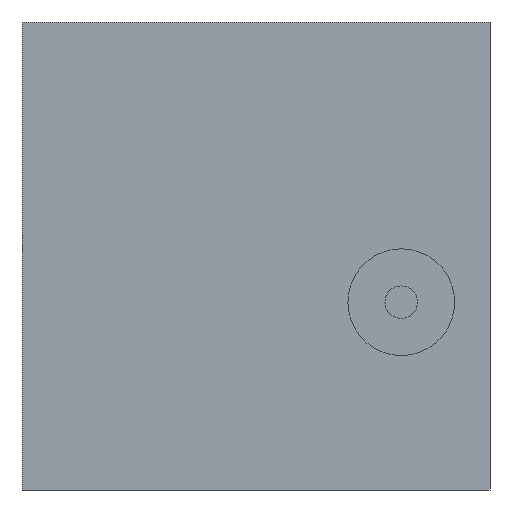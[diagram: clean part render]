
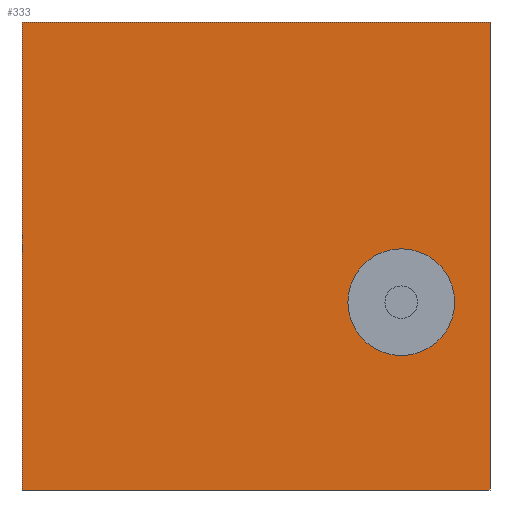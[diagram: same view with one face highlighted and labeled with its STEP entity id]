
A CAD part, left-side view. The second image highlights one B-rep face of the part: STEP entity #333.
In plain terms, the highlighted planar face has unit normal (-1, 0, 0).
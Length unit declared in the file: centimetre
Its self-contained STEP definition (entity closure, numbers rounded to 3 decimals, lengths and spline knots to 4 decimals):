
#1 = EDGE_CURVE ( 'NONE', #198, #233, #60, .T. ) ;
#20 = CARTESIAN_POINT ( 'NONE',  ( 0., 189.5426, 401.2877 ) ) ;
#44 = EDGE_LOOP ( 'NONE', ( #503, #148 ) ) ;
#54 = VECTOR ( 'NONE', #511, 100. ) ;
#60 = LINE ( 'NONE', #557, #546 ) ;
#61 = CARTESIAN_POINT ( 'NONE',  ( 0., 0., 1000. ) ) ;
#66 = CARTESIAN_POINT ( 'NONE',  ( 0., 1000., 0. ) ) ;
#76 = EDGE_CURVE ( 'NONE', #90, #191, #615, .T. ) ;
#80 = CARTESIAN_POINT ( 'NONE',  ( 0., 1000., 1000. ) ) ;
#90 = VERTEX_POINT ( 'NONE', #161 ) ;
#95 = VERTEX_POINT ( 'NONE', #463 ) ;
#96 = DIRECTION ( 'NONE',  ( -1., 0., 0. ) ) ;
#116 = EDGE_CURVE ( 'NONE', #198, #95, #406, .T. ) ;
#148 = ORIENTED_EDGE ( 'NONE', *, *, #424, .F. ) ;
#161 = CARTESIAN_POINT ( 'NONE',  ( 0., 189.5426, 515.3777 ) ) ;
#162 = DIRECTION ( 'NONE',  ( -1., 0., 0. ) ) ;
#191 = VERTEX_POINT ( 'NONE', #436 ) ;
#195 = DIRECTION ( 'NONE',  ( 0., 0., -1. ) ) ;
#198 = VERTEX_POINT ( 'NONE', #80 ) ;
#206 = EDGE_LOOP ( 'NONE', ( #585, #647, #278, #484 ) ) ;
#233 = VERTEX_POINT ( 'NONE', #66 ) ;
#234 = CIRCLE ( 'NONE', #395, 114.09 ) ;
#257 = DIRECTION ( 'NONE',  ( 0., 0., 1. ) ) ;
#278 = ORIENTED_EDGE ( 'NONE', *, *, #116, .F. ) ;
#287 = AXIS2_PLACEMENT_3D ( 'NONE', #565, #614, #356 ) ;
#307 = CARTESIAN_POINT ( 'NONE',  ( 0., 1000., 1000. ) ) ;
#333 = ADVANCED_FACE ( 'NONE', ( #518, #363 ), #367, .F. ) ;
#344 = AXIS2_PLACEMENT_3D ( 'NONE', #372, #96, #257 ) ;
#356 = DIRECTION ( 'NONE',  ( 0., 0., -1. ) ) ;
#363 = FACE_OUTER_BOUND ( 'NONE', #206, .T. ) ;
#364 = VERTEX_POINT ( 'NONE', #507 ) ;
#367 = PLANE ( 'NONE',  #287 ) ;
#372 = CARTESIAN_POINT ( 'NONE',  ( 0., 189.5426, 401.2877 ) ) ;
#373 = DIRECTION ( 'NONE',  ( 0., -1., 0. ) ) ;
#390 = EDGE_CURVE ( 'NONE', #233, #364, #432, .T. ) ;
#395 = AXIS2_PLACEMENT_3D ( 'NONE', #20, #162, #581 ) ;
#406 = LINE ( 'NONE', #307, #54 ) ;
#424 = EDGE_CURVE ( 'NONE', #191, #90, #234, .T. ) ;
#429 = EDGE_CURVE ( 'NONE', #95, #364, #526, .T. ) ;
#432 = LINE ( 'NONE', #619, #452 ) ;
#436 = CARTESIAN_POINT ( 'NONE',  ( 0., 189.5426, 287.1977 ) ) ;
#452 = VECTOR ( 'NONE', #373, 100. ) ;
#463 = CARTESIAN_POINT ( 'NONE',  ( 0., 0., 1000. ) ) ;
#484 = ORIENTED_EDGE ( 'NONE', *, *, #1, .T. ) ;
#503 = ORIENTED_EDGE ( 'NONE', *, *, #76, .F. ) ;
#507 = CARTESIAN_POINT ( 'NONE',  ( 0., 0., 0. ) ) ;
#511 = DIRECTION ( 'NONE',  ( 0., -1., 0. ) ) ;
#518 = FACE_BOUND ( 'NONE', #44, .T. ) ;
#526 = LINE ( 'NONE', #61, #609 ) ;
#546 = VECTOR ( 'NONE', #195, 100. ) ;
#557 = CARTESIAN_POINT ( 'NONE',  ( 0., 1000., 1000. ) ) ;
#565 = CARTESIAN_POINT ( 'NONE',  ( 0., 1000., 1000. ) ) ;
#581 = DIRECTION ( 'NONE',  ( 0., 0., 1. ) ) ;
#585 = ORIENTED_EDGE ( 'NONE', *, *, #390, .T. ) ;
#609 = VECTOR ( 'NONE', #621, 100. ) ;
#614 = DIRECTION ( 'NONE',  ( 1., 0., 0. ) ) ;
#615 = CIRCLE ( 'NONE', #344, 114.09 ) ;
#619 = CARTESIAN_POINT ( 'NONE',  ( 0., 1000., 0. ) ) ;
#621 = DIRECTION ( 'NONE',  ( 0., 0., -1. ) ) ;
#647 = ORIENTED_EDGE ( 'NONE', *, *, #429, .F. ) ;
